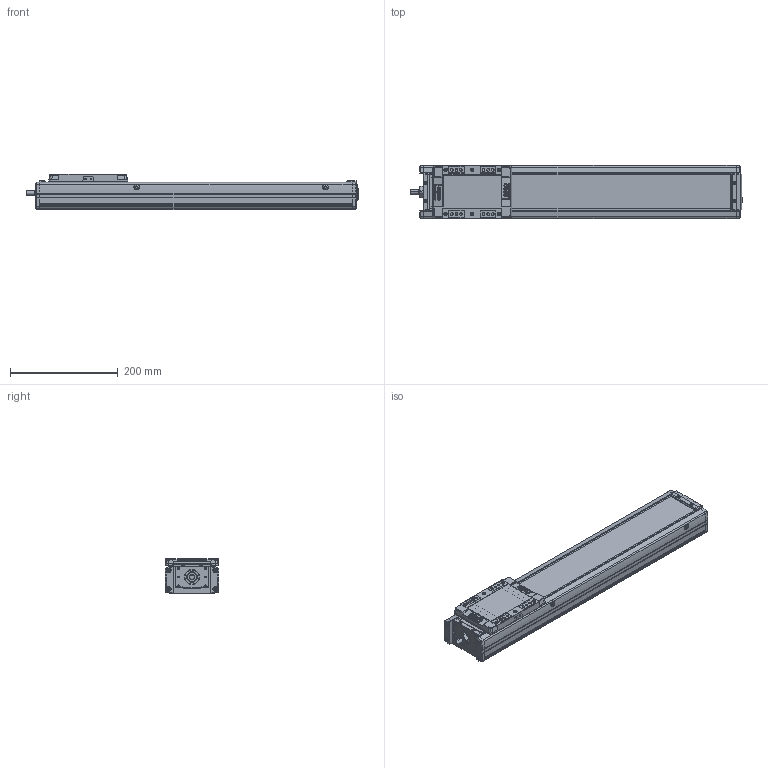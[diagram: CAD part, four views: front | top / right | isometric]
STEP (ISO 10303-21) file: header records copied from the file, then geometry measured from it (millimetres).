
FILE_DESCRIPTION(('STEP AP214'),'1');
FILE_NAME('Z:/Web/3D/SAN100/SAN100 양산용 (STEP)/SAN100ㅁㅁ-400.stp','2013-04-25T07:15:25',(' '),(' '),'Spatial InterOp 3D',' ',' ');
FILE_SCHEMA(('automotive_design'));
Length unit declared in the file: millimetre
Products named in the file (34): SUS COVER; SFX-SAN100; RRCV-SAN100; 스크루 : Round - M4.0 x 10.0; M3.0 x 6.0; 스크루 : Round - M3.0 x 6.0; FRBL-SAN100; SLBL-SAN100; SLCV-SAN100; 스크루 : Countersunk - M3.0 x 6.0; BASE; 스크루 : Round - M5.0 x 6.0; 너트 : Square - M10.0 x 220.7419; RR1500-000L; FRCV-SAN100
Bounding box: 616 x 100 x 66 mm (x, y, z)
Volume: 1679548.8 mm3; surface area: 431990.7 mm2
Topology: 34 solids, 35 shells, 1958 faces, 5102 edges, 3279 vertices
Faces by surface type: plane 969, cylinder 717, cone 190, sphere 44, torus 26, bspline 12
Entity records: 77223 total; most frequent: CARTESIAN_POINT 11787, DIRECTION 10725, ORIENTED_EDGE 10040, EDGE_CURVE 5020, AXIS2_PLACEMENT_3D 3846, VERTEX_POINT 3279, LINE 3033, VECTOR 3033
